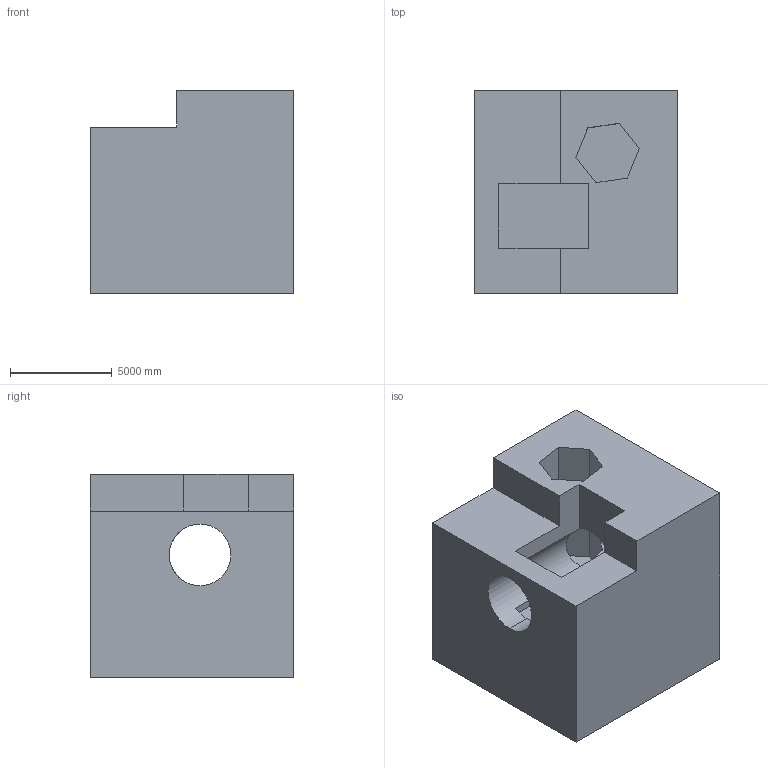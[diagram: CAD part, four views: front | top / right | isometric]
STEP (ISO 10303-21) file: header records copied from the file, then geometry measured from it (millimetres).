
FILE_DESCRIPTION (( 'STEP AP203' ), '1' );
FILE_NAME ('1336.STEP', '2022-08-18T13:50:38', ( 'user' ), ( '' ), 'SwSTEP 2.0', 'SolidWorks 2021', '' );
FILE_SCHEMA (( 'CONFIG_CONTROL_DESIGN' ));
Length unit declared in the file: centimetre
Products named in the file (1): 1336
Bounding box: 10000 x 10000 x 10000 mm (x, y, z)
Volume: 775777727637.8 mm3; surface area: 726556960.8 mm2
Topology: 1 solids, 1 shells, 26 faces, 78 edges, 52 vertices
Faces by surface type: plane 23, cylinder 3
Entity records: 961 total; most frequent: CARTESIAN_POINT 169, ORIENTED_EDGE 156, DIRECTION 138, EDGE_CURVE 78, VECTOR 64, LINE 64, VERTEX_POINT 52, AXIS2_PLACEMENT_3D 37
